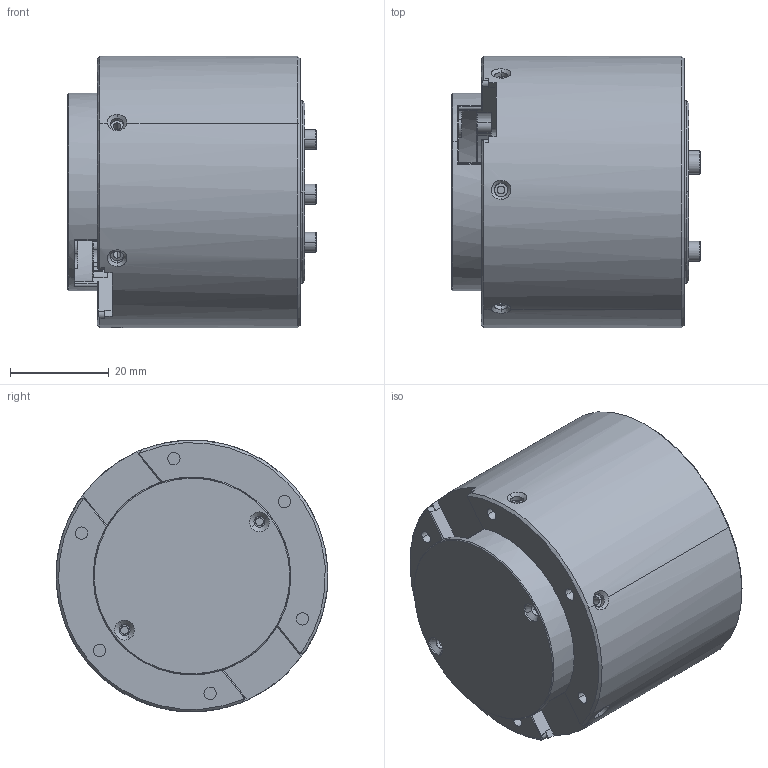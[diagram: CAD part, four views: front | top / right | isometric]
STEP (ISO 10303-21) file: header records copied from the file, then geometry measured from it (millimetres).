
FILE_DESCRIPTION (( 'STEP AP203' ), '1' );
FILE_NAME ('4310-36萇儂_25071001.STEP', '2025-07-10T07:42:43', ( '' ), ( '' ), 'SwSTEP 2.0', 'SolidWorks 2016', '' );
FILE_SCHEMA (( 'CONFIG_CONTROL_DESIGN' ));
Length unit declared in the file: millimetre
Products named in the file (1): 4310-36萇儂_25071001
Bounding box: 50.3 x 55 x 55 mm (x, y, z)
Volume: 91070.8 mm3; surface area: 31698.4 mm2
Topology: 1 solids, 6 shells, 856 faces, 2220 edges, 1410 vertices
Faces by surface type: cylinder 350, cone 245, plane 196, torus 65
Entity records: 29753 total; most frequent: CARTESIAN_POINT 8654, DIRECTION 4562, ORIENTED_EDGE 4400, EDGE_CURVE 2200, AXIS2_PLACEMENT_3D 1919, VERTEX_POINT 1410, CIRCLE 1062, EDGE_LOOP 944
